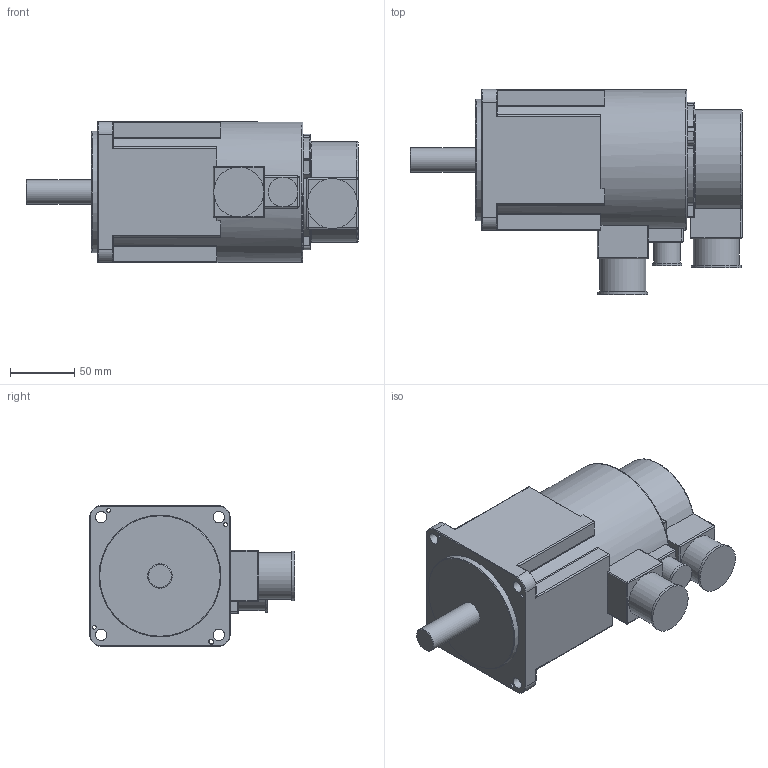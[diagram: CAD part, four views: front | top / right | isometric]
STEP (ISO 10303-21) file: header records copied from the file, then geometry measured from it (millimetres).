
FILE_DESCRIPTION(/* description */ (''),/* implementation_level */ '2;1');
FILE_NAME(/* name */ '110GSL06025(110GAL06020)-FZ.stp',/* time_stamp */ '2019-11-22T14:09:57+08:00',/* author */ (''),/* organization */ (''),/* preprocessor_version */ 'ST-DEVELOPER v16',/* originating_system */ 'SIEMENS PLM Software NX 10.0',/* authorisation */ '');
FILE_SCHEMA (('CONFIG_CONTROL_DESIGN'));
Length unit declared in the file: millimetre
Products named in the file (1): 110GSL06025(110GAL06020)-FZ
Bounding box: 259 x 160 x 110 mm (x, y, z)
Volume: 2041472.2 mm3; surface area: 118282.4 mm2
Topology: 1 solids, 1 shells, 224 faces, 574 edges, 339 vertices
Faces by surface type: cylinder 109, plane 66, torus 20, bspline 15, sphere 10, cone 4
Full cylindrical faces by diameter (mm): 3 x3, 3.3 x1, 9 x4, 19 x1, 21 x1, 23 x1, 36 x2, 39 x2, 95 x1, 109.5 x1
Entity records: 7869 total; most frequent: CARTESIAN_POINT 2659, DIRECTION 1074, ORIENTED_EDGE 1044, EDGE_CURVE 522, AXIS2_PLACEMENT_3D 417, VERTEX_POINT 331, EDGE_LOOP 271, LINE 240
